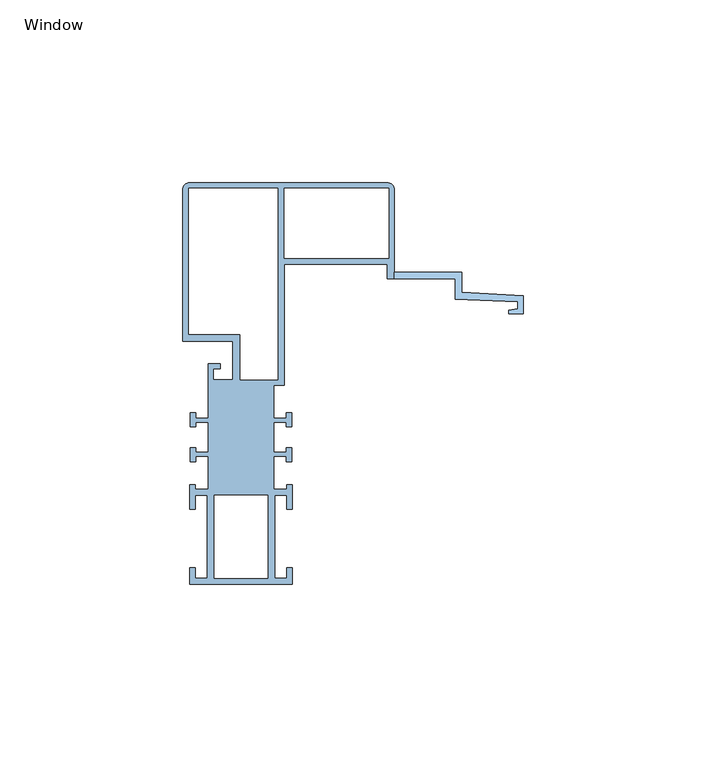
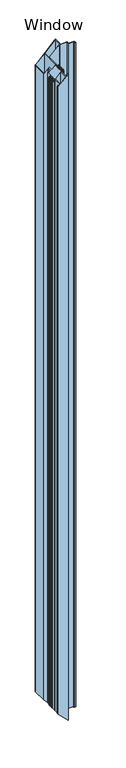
"""IFC4 building model written with IfcOpenShell, lengths in millimetres: window geometry, QO-V-QBISS_Window Module : Window."""

from ifc_helpers import new_model, si_unit, frame, origin, place, context, project, spatial, ellipse_curve, source, transform, mapped, element, save
from ifc_brep_helpers import plane_surface, cylinder_surface, advanced_brep


def window_37efd591(model_context):
    return source(origin(), model_context, "Body", "AdvancedBrep", [
        advanced_brep(
        [(973.0, -24.5, 12.5), (991.5, -24.5, 12.5), (991.5, -30.1, 12.5), (1008.3, -30.9804507, 12.5), (1008.3, -35.9804507, 12.5), (1004.3, -35.9804507, 12.5), (1004.3, -34.974409, 12.5), (1006.8, -34.5971452, 12.5), (1006.8, -32.5971452, 12.5), (989.7, -32.0, 12.5), (989.7, -26.3, 12.5), (973.0, -26.3, 12.5), (973.0, -24.5, 1987.5), (991.5, -24.5, 1987.5), (991.5, -30.1, 1987.5), (1008.3, -30.9804507, 1987.5), (1008.3, -35.9804507, 1987.5), (1004.3, -35.9804507, 1987.5), (1004.3, -34.974409, 1987.5), (1006.8, -34.5971452, 1987.5), (1006.8, -32.5971452, 1987.5), (989.7, -32.0, 1987.5), (989.7, -26.3, 1987.5), (973.0, -26.3, 1987.5), (971.0, -26.3, 1985.5), (971.0, -26.3, 14.5), (971.0, -22.4, 14.5), (942.8, -22.4, 42.7), (942.8, -55.4999986, 42.7), (939.9523459, -55.4999986, 45.5476541), (939.9523459, -64.5037405, 45.5476541), (943.4523458, -64.5037405, 42.0476542), (943.4523458, -63.0037405, 42.0476542), (944.9523458, -63.0037405, 40.5476542), (944.9523458, -66.9037405, 40.5476542), (943.4523458, -66.9037405, 42.0476542), (943.4523458, -65.7037405, 42.0476542), (939.9523458, -65.7037405, 45.5476542), (939.9523458, -73.8037405, 45.5476542), (943.4523458, -73.8037405, 42.0476542), (943.4523458, -72.6037405, 42.0476542), (944.9523458, -72.6037405, 40.5476542), (944.9523458, -76.5037405, 40.5476542), (943.4523458, -76.5037405, 42.0476542), (943.4523458, -75.0037405, 42.0476542), (939.9523452, -75.0037405, 45.5476548), (939.9523452, -84.0037561, 45.5476548), (943.5018295, -84.0037561, 41.9981705), (943.5018295, -82.8037561, 41.9981705), (945.0018295, -82.8037561, 40.4981705), (945.0018295, -89.5037561, 40.4981705), (943.5018295, -89.5037561, 41.9981705), (943.5018295, -85.7037561, 41.9981705), (940.2018295, -85.7037561, 45.2981705), (940.2018295, -108.3037561, 45.2981705), (943.5018295, -108.3037561, 41.9981705), (943.5018295, -105.5037561, 41.9981705), (945.0018295, -105.5037561, 40.4981705), (945.0018295, -110.0037561, 40.4981705), (917.0018295, -110.0037561, 68.4981705), (917.0018295, -105.5037561, 68.4981705), (918.5018295, -105.5037561, 66.9981705), (918.5018295, -108.3037561, 66.9981705), (921.8018295, -108.3037561, 63.6981705), (921.8018295, -85.7037561, 63.6981705), (918.5018295, -85.7037561, 66.9981705), (918.5018295, -89.5037561, 66.9981705), (917.0018295, -89.5037561, 68.4981705), (917.0018295, -82.8037561, 68.4981705), (918.5018295, -82.8037561, 66.9981705), (918.5018295, -84.0037561, 66.9981705), (922.0513139, -84.0037561, 63.4486861), (922.0513139, -75.0037405, 63.4486861), (918.5513133, -75.0037405, 66.9486867), (918.5513133, -76.5037405, 66.9486867), (917.0513133, -76.5037405, 68.4486867), (917.0513133, -72.6037405, 68.4486867), (918.5513133, -72.6037405, 66.9486867), (918.5513133, -73.8037405, 66.9486867), (922.0513133, -73.8037405, 63.4486867), (922.0513133, -65.7037405, 63.4486867), (918.5513133, -65.7037405, 66.9486867), (918.5513133, -66.9037405, 66.9486867), (917.0513133, -66.9037405, 68.4486867), (917.0513133, -63.0037405, 68.4486867), (918.5513133, -63.0037405, 66.9486867), (918.5513133, -64.5037405, 66.9486867), (922.0, -64.5037405, 63.5), (922.0, -49.6, 63.5), (925.3, -49.6, 60.2), (925.3, -51.0, 60.2), (923.4, -51.0, 62.1), (923.4, -54.0, 62.1), (928.8, -54.0, 56.7), (928.8, -43.5, 56.7), (915.0, -43.5, 70.5), (915.0, -2.0, 70.5), (917.0, 0.0, 68.5), (971.0, 0.0, 14.5), (973.0, -2.0, 12.5), (942.8, -1.5, 42.7), (942.8, -20.7, 42.7), (971.5, -20.7, 14.0), (971.5, -1.5, 14.0), (930.8, -41.5, 54.7), (930.8, -54.0, 54.7), (941.1, -54.0, 44.4), (941.1, -1.5, 44.4), (916.7, -1.5, 68.8), (916.7, -41.5, 68.8), (923.7018295, -108.3037561, 61.7981705), (938.3018295, -108.3037561, 47.1981705), (938.3018295, -85.7037561, 47.1981705), (923.7018295, -85.7037561, 61.7981705), (939.9523452, -75.0037405, 1954.4523452), (939.9523452, -84.0037561, 1954.4523452), (943.5018295, -84.0037561, 1958.0018295), (943.4523458, -75.0037405, 1957.9523458), (943.5018295, -82.8037561, 1958.0018295), (945.0018295, -82.8037561, 1959.5018295), (945.0018295, -89.5037561, 1959.5018295), (943.5018295, -89.5037561, 1958.0018295), (943.5018295, -85.7037561, 1958.0018295), (940.2018295, -85.7037561, 1954.7018295), (940.2018295, -108.3037561, 1954.7018295), (943.5018295, -108.3037561, 1958.0018295), (943.5018295, -105.5037561, 1958.0018295), (945.0018295, -105.5037561, 1959.5018295), (945.0018295, -110.0037561, 1959.5018295), (917.0018295, -110.0037561, 1931.5018295), (917.0018295, -105.5037561, 1931.5018295), (918.5018295, -105.5037561, 1933.0018295), (918.5018295, -108.3037561, 1933.0018295), (921.8018295, -108.3037561, 1936.3018295), (921.8018295, -85.7037561, 1936.3018295), (918.5018295, -85.7037561, 1933.0018295), (918.5018295, -89.5037561, 1933.0018295), (917.0018295, -89.5037561, 1931.5018295), (917.0018295, -82.8037561, 1931.5018295), (918.5018295, -82.8037561, 1933.0018295), (918.5018295, -84.0037561, 1933.0018295), (922.0513139, -84.0037561, 1936.5513139), (922.0513139, -75.0037405, 1936.5513139), (918.5513133, -75.0037405, 1933.0513133), (918.5513133, -76.5037405, 1933.0513133), (917.0513133, -76.5037405, 1931.5513133), (917.0513133, -72.6037405, 1931.5513133), (918.5513133, -72.6037405, 1933.0513133), (918.5513133, -73.8037405, 1933.0513133), (922.0513133, -73.8037405, 1936.5513133), (922.0513133, -65.7037405, 1936.5513133), (918.5513133, -65.7037405, 1933.0513133), (918.5513133, -66.9037405, 1933.0513133), (917.0513133, -66.9037405, 1931.5513133), (917.0513133, -63.0037405, 1931.5513133), (918.5513133, -63.0037405, 1933.0513133), (918.5513133, -64.5037405, 1933.0513133), (922.0, -64.5037405, 1936.5), (922.0, -49.6, 1936.5), (925.3, -49.6, 1939.8), (925.3, -51.0, 1939.8), (923.4, -51.0, 1937.9), (923.4, -54.0, 1937.9), (928.8, -54.0, 1943.3), (928.8, -43.5, 1943.3), (915.0, -43.5, 1929.5), (915.0, -2.0, 1929.5), (917.0, 0.0, 1931.5), (971.0, 0.0, 1985.5), (973.0, -2.0, 1987.5), (971.0, -22.4, 1985.5), (942.8, -22.4, 1957.3), (942.8, -55.4999986, 1957.3), (939.9523459, -55.4999986, 1954.4523459), (939.9523459, -64.5037405, 1954.4523459), (943.4523458, -64.5037405, 1957.9523458), (943.4523458, -63.0037405, 1957.9523458), (944.9523458, -63.0037405, 1959.4523458), (944.9523458, -66.9037405, 1959.4523458), (943.4523458, -66.9037405, 1957.9523458), (943.4523458, -65.7037405, 1957.9523458), (939.9523458, -65.7037405, 1954.4523458), (939.9523458, -73.8037405, 1954.4523458), (943.4523458, -73.8037405, 1957.9523458), (943.4523458, -72.6037405, 1957.9523458), (944.9523458, -72.6037405, 1959.4523458), (944.9523458, -76.5037405, 1959.4523458), (943.4523458, -76.5037405, 1957.9523458), (942.8, -1.5, 1957.3), (942.8, -20.7, 1957.3), (971.5, -20.7, 1986.0), (971.5, -1.5, 1986.0), (930.8, -41.5, 1945.3), (930.8, -54.0, 1945.3), (941.1, -54.0, 1955.6), (916.7, -41.5, 1931.2), (941.1, -1.5, 1955.6), (916.7, -1.5, 1931.2), (923.7018295, -108.3037561, 1938.2018295), (938.3018295, -108.3037561, 1952.8018295), (938.3018295, -85.7037561, 1952.8018295), (923.7018295, -85.7037561, 1938.2018295)],
        [
            (0, 1),
            (1, 2),
            (2, 3),
            (3, 4),
            (4, 5),
            (5, 6),
            (6, 7),
            (7, 8),
            (8, 9),
            (9, 10),
            (10, 11),
            (11, 0),
            (12, 13),
            (13, 1),
            (0, 12),
            (13, 14),
            (14, 2),
            (14, 15),
            (15, 3),
            (15, 16),
            (16, 4),
            (16, 17),
            (17, 5),
            (17, 18),
            (18, 6),
            (18, 19),
            (19, 7),
            (19, 20),
            (20, 8),
            (20, 21),
            (21, 9),
            (21, 22),
            (22, 10),
            (22, 23),
            (23, 24),
            (24, 25),
            (25, 11),
            (25, 26),
            (26, 27),
            (27, 28),
            (28, 29),
            (29, 30),
            (30, 31),
            (31, 32),
            (32, 33),
            (33, 34),
            (34, 35),
            (35, 36),
            (36, 37),
            (37, 38),
            (38, 39),
            (39, 40),
            (40, 41),
            (41, 42),
            (42, 43),
            (43, 44),
            (44, 45),
            (45, 46),
            (46, 47),
            (47, 48),
            (48, 49),
            (49, 50),
            (50, 51),
            (51, 52),
            (52, 53),
            (53, 54),
            (54, 55),
            (55, 56),
            (56, 57),
            (57, 58),
            (58, 59),
            (59, 60),
            (60, 61),
            (61, 62),
            (62, 63),
            (63, 64),
            (64, 65),
            (65, 66),
            (66, 67),
            (67, 68),
            (68, 69),
            (69, 70),
            (70, 71),
            (71, 72),
            (72, 73),
            (73, 74),
            (74, 75),
            (75, 76),
            (76, 77),
            (77, 78),
            (78, 79),
            (79, 80),
            (80, 81),
            (81, 82),
            (82, 83),
            (83, 84),
            (84, 85),
            (85, 86),
            (86, 87),
            (87, 88),
            (88, 89),
            (89, 90),
            (90, 91),
            (91, 92),
            (92, 93),
            (93, 94),
            (94, 95),
            (95, 96),
            (96, 97, ellipse_curve(frame((917.0, -2.0, 68.5), z_axis=(-0.7071067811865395, 0.0, -0.7071067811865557), x_axis=(-0.7071067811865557, 0.0, 0.7071067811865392)), 2.8284271, 2.0)),
            (97, 98),
            (98, 99, ellipse_curve(frame((971.0, -2.0, 14.5), z_axis=(-0.7071067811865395, 0.0, -0.7071067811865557), x_axis=(-0.7071067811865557, 0.0, 0.7071067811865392)), 2.8284271, 2.0)),
            (99, 0),
            (100, 101),
            (101, 102),
            (102, 103),
            (103, 100),
            (104, 105),
            (105, 106),
            (106, 107),
            (107, 108),
            (108, 109),
            (109, 104),
            (110, 111),
            (111, 112),
            (112, 113),
            (113, 110),
            (114, 115),
            (115, 46),
            (45, 114),
            (115, 116),
            (116, 47),
            (117, 114),
            (44, 117),
            (116, 118),
            (118, 48),
            (118, 119),
            (119, 49),
            (119, 120),
            (120, 50),
            (120, 121),
            (121, 51),
            (121, 122),
            (122, 52),
            (122, 123),
            (123, 53),
            (123, 124),
            (124, 54),
            (124, 125),
            (125, 55),
            (125, 126),
            (126, 56),
            (126, 127),
            (127, 57),
            (127, 128),
            (128, 58),
            (128, 129),
            (129, 59),
            (129, 130),
            (130, 60),
            (130, 131),
            (131, 61),
            (131, 132),
            (132, 62),
            (132, 133),
            (133, 63),
            (133, 134),
            (134, 64),
            (134, 135),
            (135, 65),
            (135, 136),
            (136, 66),
            (136, 137),
            (137, 67),
            (137, 138),
            (138, 68),
            (138, 139),
            (139, 69),
            (139, 140),
            (140, 70),
            (140, 141),
            (141, 71),
            (141, 142),
            (142, 72),
            (142, 143),
            (143, 73),
            (143, 144),
            (144, 74),
            (144, 145),
            (145, 75),
            (145, 146),
            (146, 76),
            (146, 147),
            (147, 77),
            (147, 148),
            (148, 78),
            (148, 149),
            (149, 79),
            (149, 150),
            (150, 80),
            (150, 151),
            (151, 81),
            (151, 152),
            (152, 82),
            (152, 153),
            (153, 83),
            (153, 154),
            (154, 84),
            (154, 155),
            (155, 85),
            (155, 156),
            (156, 86),
            (156, 157),
            (157, 87),
            (157, 158),
            (158, 88),
            (158, 159),
            (159, 89),
            (159, 160),
            (160, 90),
            (160, 161),
            (161, 91),
            (161, 162),
            (162, 92),
            (162, 163),
            (163, 93),
            (163, 164),
            (164, 94),
            (164, 165),
            (165, 95),
            (165, 166),
            (166, 96),
            (166, 167, ellipse_curve(frame((917.0, -2.0, 1931.5), z_axis=(0.7071067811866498, 0.0, -0.7071067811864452), x_axis=(0.7071067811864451, 0.0, 0.7071067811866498)), 2.8284271, 2.0)),
            (167, 97),
            (167, 168),
            (168, 98),
            (169, 99),
            (168, 169, ellipse_curve(frame((971.0, -2.0, 1985.5), z_axis=(0.7071067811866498, 0.0, -0.7071067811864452), x_axis=(0.7071067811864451, 0.0, 0.7071067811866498)), 2.8284271, 2.0)),
            (169, 12),
            (24, 170),
            (170, 26),
            (170, 171),
            (171, 27),
            (171, 172),
            (172, 28),
            (172, 173),
            (173, 29),
            (173, 174),
            (174, 30),
            (174, 175),
            (175, 31),
            (175, 176),
            (176, 32),
            (176, 177),
            (177, 33),
            (177, 178),
            (178, 34),
            (178, 179),
            (179, 35),
            (179, 180),
            (180, 36),
            (180, 181),
            (181, 37),
            (181, 182),
            (182, 38),
            (182, 183),
            (183, 39),
            (183, 184),
            (184, 40),
            (184, 185),
            (185, 41),
            (185, 186),
            (186, 42),
            (186, 187),
            (187, 43),
            (187, 117),
            (188, 189),
            (189, 101),
            (100, 188),
            (189, 190),
            (190, 102),
            (191, 188),
            (103, 191),
            (190, 191),
            (192, 193),
            (193, 105),
            (104, 192),
            (193, 194),
            (194, 106),
            (195, 192),
            (109, 195),
            (194, 196),
            (196, 107),
            (196, 197),
            (197, 108),
            (197, 195),
            (198, 199),
            (199, 111),
            (110, 198),
            (199, 200),
            (200, 112),
            (201, 198),
            (113, 201),
            (200, 201),
            (12, 23),
        ],
        [
            plane_surface(frame((1000.0, 0.0, 12.5), z_axis=(0.0, 0.0, -1.0), x_axis=(0.0, -1.0, 0.0))),
            plane_surface(frame((991.5, -24.5, 1987.5), z_axis=(0.0, 1.0, 0.0), x_axis=(0.0, 0.0, -1.0))),
            plane_surface(frame((991.5, -30.1, 1987.5), z_axis=(1.0, 0.0, 0.0), x_axis=(0.0, 0.0, -1.0))),
            plane_surface(frame((1008.3, -30.9804507, 1987.5), z_axis=(0.05233595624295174, 0.9986295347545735, 0.0), x_axis=(0.0, 0.0, -1.0))),
            plane_surface(frame((1008.3, -35.9804507, 1987.5), z_axis=(1.0, 0.0, 0.0), x_axis=(0.0, 0.0, -1.0))),
            plane_surface(frame((1004.3, -35.9804507, 1987.5), z_axis=(0.0, -1.0, 0.0), x_axis=(0.0, 0.0, -1.0))),
            plane_surface(frame((1004.3, -34.974409, 1987.5), z_axis=(-1.0, 0.0, 0.0), x_axis=(0.0, 0.0, -1.0))),
            plane_surface(frame((1006.8, -34.5971452, 1987.5), z_axis=(-0.14921608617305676, 0.9888046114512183, 0.0), x_axis=(0.0, 0.0, -1.0))),
            plane_surface(frame((1006.8, -32.5971452, 1987.5), z_axis=(-1.0, 0.0, 0.0), x_axis=(0.0, 0.0, -1.0))),
            plane_surface(frame((989.7, -32.0, 1987.5), z_axis=(-0.0348994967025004, -0.9993908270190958, 0.0), x_axis=(0.0, 0.0, -1.0))),
            plane_surface(frame((989.7, -26.3, 1987.5), z_axis=(-1.0, 0.0, 0.0), x_axis=(0.0, 0.0, -1.0))),
            plane_surface(frame((971.0, -26.3, 1987.5), z_axis=(0.0, -1.0, 0.0), x_axis=(0.0, 0.0, -1.0))),
            plane_surface(frame((973.0, -180.0, 12.5), z_axis=(-0.7071067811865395, 0.0, -0.7071067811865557), x_axis=(0.0, 1.0, 0.0))),
            plane_surface(frame((939.9523452, -84.0037561, 1987.5), z_axis=(1.0, 0.0, 0.0), x_axis=(0.0, 0.0, -1.0))),
            plane_surface(frame((943.5018295, -84.0037561, 1987.5), z_axis=(0.0, 1.0, 0.0), x_axis=(0.0, 0.0, -1.0))),
            plane_surface(frame((939.9523452, -75.0037405, 1987.5), z_axis=(0.0, -1.0, 0.0), x_axis=(0.0, 0.0, -1.0))),
            plane_surface(frame((943.5018295, -82.8037561, 1987.5), z_axis=(-1.0, 0.0, 0.0), x_axis=(0.0, 0.0, -1.0))),
            plane_surface(frame((945.0018295, -82.8037561, 1987.5), z_axis=(0.0, 1.0, 0.0), x_axis=(0.0, 0.0, -1.0))),
            plane_surface(frame((945.0018295, -89.5037561, 1987.5), z_axis=(1.0, 0.0, 0.0), x_axis=(0.0, 0.0, -1.0))),
            plane_surface(frame((943.5018295, -89.5037561, 1987.5), z_axis=(0.0, -1.0, 0.0), x_axis=(0.0, 0.0, -1.0))),
            plane_surface(frame((943.5018295, -85.7037561, 1987.5), z_axis=(-1.0, 0.0, 0.0), x_axis=(0.0, 0.0, -1.0))),
            plane_surface(frame((940.2018295, -85.7037561, 1987.5), z_axis=(0.0, -1.0, 0.0), x_axis=(0.0, 0.0, -1.0))),
            plane_surface(frame((940.2018295, -108.3037561, 1987.5), z_axis=(1.0, 0.0, 0.0), x_axis=(0.0, 0.0, -1.0))),
            plane_surface(frame((943.5018295, -108.3037561, 1987.5), z_axis=(0.0, 1.0, 0.0), x_axis=(0.0, 0.0, -1.0))),
            plane_surface(frame((943.5018295, -105.5037561, 1987.5), z_axis=(-1.0, 0.0, 0.0), x_axis=(0.0, 0.0, -1.0))),
            plane_surface(frame((945.0018295, -105.5037561, 1987.5), z_axis=(0.0, 1.0, 0.0), x_axis=(0.0, 0.0, -1.0))),
            plane_surface(frame((945.0018295, -110.0037561, 1987.5), z_axis=(1.0, 0.0, 0.0), x_axis=(0.0, 0.0, -1.0))),
            plane_surface(frame((917.0018295, -110.0037561, 1987.5), z_axis=(0.0, -1.0, 0.0), x_axis=(0.0, 0.0, -1.0))),
            plane_surface(frame((917.0018295, -105.5037561, 1987.5), z_axis=(-1.0, 0.0, 0.0), x_axis=(0.0, 0.0, -1.0))),
            plane_surface(frame((918.5018295, -105.5037561, 1987.5), z_axis=(0.0, 1.0, 0.0), x_axis=(0.0, 0.0, -1.0))),
            plane_surface(frame((918.5018295, -108.3037561, 1987.5), z_axis=(1.0, 0.0, 0.0), x_axis=(0.0, 0.0, -1.0))),
            plane_surface(frame((921.8018295, -108.3037561, 1987.5), z_axis=(0.0, 1.0, 0.0), x_axis=(0.0, 0.0, -1.0))),
            plane_surface(frame((921.8018295, -85.7037561, 1987.5), z_axis=(-1.0, 0.0, 0.0), x_axis=(0.0, 0.0, -1.0))),
            plane_surface(frame((918.5018295, -85.7037561, 1987.5), z_axis=(0.0, -1.0, 0.0), x_axis=(0.0, 0.0, -1.0))),
            plane_surface(frame((918.5018295, -89.5037561, 1987.5), z_axis=(1.0, 0.0, 0.0), x_axis=(0.0, 0.0, -1.0))),
            plane_surface(frame((917.0018295, -89.5037561, 1987.5), z_axis=(0.0, -1.0, 0.0), x_axis=(0.0, 0.0, -1.0))),
            plane_surface(frame((917.0018295, -82.8037561, 1987.5), z_axis=(-1.0, 0.0, 0.0), x_axis=(0.0, 0.0, -1.0))),
            plane_surface(frame((918.5018295, -82.8037561, 1987.5), z_axis=(0.0, 1.0, 0.0), x_axis=(0.0, 0.0, -1.0))),
            plane_surface(frame((918.5018295, -84.0037561, 1987.5), z_axis=(1.0, 0.0, 0.0), x_axis=(0.0, 0.0, -1.0))),
            plane_surface(frame((922.0513139, -84.0037561, 1987.5), z_axis=(0.0, 1.0, 0.0), x_axis=(0.0, 0.0, -1.0))),
            plane_surface(frame((922.0513139, -75.0037405, 1987.5), z_axis=(-1.0, 0.0, 0.0), x_axis=(0.0, 0.0, -1.0))),
            plane_surface(frame((918.5513133, -75.0037405, 1987.5), z_axis=(0.0, -1.0, 0.0), x_axis=(0.0, 0.0, -1.0))),
            plane_surface(frame((918.5513133, -76.5037405, 1987.5), z_axis=(1.0, 0.0, 0.0), x_axis=(0.0, 0.0, -1.0))),
            plane_surface(frame((917.0513133, -76.5037405, 1987.5), z_axis=(0.0, -1.0, 0.0), x_axis=(0.0, 0.0, -1.0))),
            plane_surface(frame((917.0513133, -72.6037405, 1987.5), z_axis=(-1.0, 0.0, 0.0), x_axis=(0.0, 0.0, -1.0))),
            plane_surface(frame((918.5513133, -72.6037405, 1987.5), z_axis=(0.0, 1.0, 0.0), x_axis=(0.0, 0.0, -1.0))),
            plane_surface(frame((918.5513133, -73.8037405, 1987.5), z_axis=(1.0, 0.0, 0.0), x_axis=(0.0, 0.0, -1.0))),
            plane_surface(frame((922.0513133, -73.8037405, 1987.5), z_axis=(0.0, 1.0, 0.0), x_axis=(0.0, 0.0, -1.0))),
            plane_surface(frame((922.0513133, -65.7037405, 1987.5), z_axis=(-1.0, 0.0, 0.0), x_axis=(0.0, 0.0, -1.0))),
            plane_surface(frame((918.5513133, -65.7037405, 1987.5), z_axis=(0.0, -1.0, 0.0), x_axis=(0.0, 0.0, -1.0))),
            plane_surface(frame((918.5513133, -66.9037405, 1987.5), z_axis=(1.0, 0.0, 0.0), x_axis=(0.0, 0.0, -1.0))),
            plane_surface(frame((917.0513133, -66.9037405, 1987.5), z_axis=(0.0, -1.0, 0.0), x_axis=(0.0, 0.0, -1.0))),
            plane_surface(frame((917.0513133, -63.0037405, 1987.5), z_axis=(-1.0, 0.0, 0.0), x_axis=(0.0, 0.0, -1.0))),
            plane_surface(frame((918.5513133, -63.0037405, 1987.5), z_axis=(0.0, 1.0, 0.0), x_axis=(0.0, 0.0, -1.0))),
            plane_surface(frame((918.5513133, -64.5037405, 1987.5), z_axis=(1.0, 0.0, 0.0), x_axis=(0.0, 0.0, -1.0))),
            plane_surface(frame((922.0, -64.5037405, 1987.5), z_axis=(0.0, 1.0, 0.0), x_axis=(0.0, 0.0, -1.0))),
            plane_surface(frame((922.0, -49.6, 1987.5), z_axis=(-1.0, 0.0, 0.0), x_axis=(0.0, 0.0, -1.0))),
            plane_surface(frame((925.3, -49.6, 1987.5), z_axis=(0.0, 1.0, 0.0), x_axis=(0.0, 0.0, -1.0))),
            plane_surface(frame((925.3, -51.0, 1987.5), z_axis=(1.0, 0.0, 0.0), x_axis=(0.0, 0.0, -1.0))),
            plane_surface(frame((923.4, -51.0, 1987.5), z_axis=(0.0, -1.0, 0.0), x_axis=(0.0, 0.0, -1.0))),
            plane_surface(frame((923.4, -54.0, 1987.5), z_axis=(1.0, 0.0, 0.0), x_axis=(0.0, 0.0, -1.0))),
            plane_surface(frame((928.8, -54.0, 1987.5), z_axis=(0.0, 1.0, 0.0), x_axis=(0.0, 0.0, -1.0))),
            plane_surface(frame((928.8, -43.5, 1987.5), z_axis=(-1.0, 0.0, 0.0), x_axis=(0.0, 0.0, -1.0))),
            plane_surface(frame((915.0, -43.5, 1987.5), z_axis=(0.0, -1.0, 0.0), x_axis=(0.0, 0.0, -1.0))),
            plane_surface(frame((915.0, -2.0, 1987.5), z_axis=(-1.0, 0.0, 0.0), x_axis=(0.0, 0.0, -1.0))),
            cylinder_surface(frame((917.0, -2.0, 1987.5), z_axis=(0.0, 0.0, 1.0), x_axis=(0.0, -1.0, 0.0)), 2.0),
            plane_surface(frame((971.0, 0.0, 1987.5), z_axis=(0.0, 1.0, 0.0), x_axis=(0.0, 0.0, -1.0))),
            cylinder_surface(frame((971.0, -2.0, 1987.5), z_axis=(0.0, 0.0, 1.0), x_axis=(0.0, -1.0, 0.0)), 2.0),
            plane_surface(frame((973.0, -24.5, 1987.5), z_axis=(1.0, 0.0, 0.0), x_axis=(0.0, 0.0, -1.0))),
            plane_surface(frame((971.0, -22.4, 1987.5), z_axis=(-1.0, 0.0, 0.0), x_axis=(0.0, 0.0, -1.0))),
            plane_surface(frame((942.8, -22.4, 1987.5), z_axis=(0.0, -1.0, 0.0), x_axis=(0.0, 0.0, -1.0))),
            plane_surface(frame((942.8, -55.4999986, 1987.5), z_axis=(1.0, 0.0, 0.0), x_axis=(0.0, 0.0, -1.0))),
            plane_surface(frame((939.9523459, -55.4999986, 1987.5), z_axis=(0.0, -1.0, 0.0), x_axis=(0.0, 0.0, -1.0))),
            plane_surface(frame((939.9523459, -64.5037405, 1987.5), z_axis=(1.0, 0.0, 0.0), x_axis=(0.0, 0.0, -1.0))),
            plane_surface(frame((943.4523458, -64.5037405, 1987.5), z_axis=(0.0, 1.0, 0.0), x_axis=(0.0, 0.0, -1.0))),
            plane_surface(frame((943.4523458, -63.0037405, 1987.5), z_axis=(-1.0, 0.0, 0.0), x_axis=(0.0, 0.0, -1.0))),
            plane_surface(frame((944.9523458, -63.0037405, 1987.5), z_axis=(0.0, 1.0, 0.0), x_axis=(0.0, 0.0, -1.0))),
            plane_surface(frame((944.9523458, -66.9037405, 1987.5), z_axis=(1.0, 0.0, 0.0), x_axis=(0.0, 0.0, -1.0))),
            plane_surface(frame((943.4523458, -66.9037405, 1987.5), z_axis=(0.0, -1.0, 0.0), x_axis=(0.0, 0.0, -1.0))),
            plane_surface(frame((943.4523458, -65.7037405, 1987.5), z_axis=(-1.0, 0.0, 0.0), x_axis=(0.0, 0.0, -1.0))),
            plane_surface(frame((939.9523458, -65.7037405, 1987.5), z_axis=(0.0, -1.0, 0.0), x_axis=(0.0, 0.0, -1.0))),
            plane_surface(frame((939.9523458, -73.8037405, 1987.5), z_axis=(1.0, 0.0, 0.0), x_axis=(0.0, 0.0, -1.0))),
            plane_surface(frame((943.4523458, -73.8037405, 1987.5), z_axis=(0.0, 1.0, 0.0), x_axis=(0.0, 0.0, -1.0))),
            plane_surface(frame((943.4523458, -72.6037405, 1987.5), z_axis=(-1.0, 0.0, 0.0), x_axis=(0.0, 0.0, -1.0))),
            plane_surface(frame((944.9523458, -72.6037405, 1987.5), z_axis=(0.0, 1.0, 0.0), x_axis=(0.0, 0.0, -1.0))),
            plane_surface(frame((944.9523458, -76.5037405, 1987.5), z_axis=(1.0, 0.0, 0.0), x_axis=(0.0, 0.0, -1.0))),
            plane_surface(frame((943.4523458, -76.5037405, 1987.5), z_axis=(0.0, -1.0, 0.0), x_axis=(0.0, 0.0, -1.0))),
            plane_surface(frame((943.4523458, -75.0037405, 1987.5), z_axis=(-1.0, 0.0, 0.0), x_axis=(0.0, 0.0, -1.0))),
            plane_surface(frame((942.8, -20.7, 1987.5), z_axis=(1.0, 0.0, 0.0), x_axis=(0.0, 0.0, -1.0))),
            plane_surface(frame((971.5, -20.7, 1987.5), z_axis=(0.0, 1.0, 0.0), x_axis=(0.0, 0.0, -1.0))),
            plane_surface(frame((942.8, -1.5, 1987.5), z_axis=(0.0, -1.0, 0.0), x_axis=(0.0, 0.0, -1.0))),
            plane_surface(frame((971.5, -1.5, 1987.5), z_axis=(-1.0, 0.0, 0.0), x_axis=(0.0, 0.0, -1.0))),
            plane_surface(frame((930.8, -54.0, 1987.5), z_axis=(1.0, 0.0, 0.0), x_axis=(0.0, 0.0, -1.0))),
            plane_surface(frame((941.1, -54.0, 1987.5), z_axis=(0.0, 1.0, 0.0), x_axis=(0.0, 0.0, -1.0))),
            plane_surface(frame((930.8, -41.5, 1987.5), z_axis=(0.0, 1.0, 0.0), x_axis=(0.0, 0.0, -1.0))),
            plane_surface(frame((941.1, -1.5, 1987.5), z_axis=(-1.0, 0.0, 0.0), x_axis=(0.0, 0.0, -1.0))),
            plane_surface(frame((916.7, -1.5, 1987.5), z_axis=(0.0, -1.0, 0.0), x_axis=(0.0, 0.0, -1.0))),
            plane_surface(frame((916.7, -41.5, 1987.5), z_axis=(1.0, 0.0, 0.0), x_axis=(0.0, 0.0, -1.0))),
            plane_surface(frame((938.3018295, -108.3037561, 1987.5), z_axis=(0.0, 1.0, 0.0), x_axis=(0.0, 0.0, -1.0))),
            plane_surface(frame((938.3018295, -85.7037561, 1987.5), z_axis=(-1.0, 0.0, 0.0), x_axis=(0.0, 0.0, -1.0))),
            plane_surface(frame((923.7018295, -108.3037561, 1987.5), z_axis=(1.0, 0.0, 0.0), x_axis=(0.0, 0.0, -1.0))),
            plane_surface(frame((923.7018295, -85.7037561, 1987.5), z_axis=(0.0, -1.0, 0.0), x_axis=(0.0, 0.0, -1.0))),
            plane_surface(frame((1000.0, 0.0, 1987.5), z_axis=(0.0, 0.0, 1.0), x_axis=(0.0, -1.0, 0.0))),
            plane_surface(frame((915.0, -180.0, 1929.5), z_axis=(-0.7071067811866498, 0.0, 0.7071067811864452), x_axis=(0.0, 1.0, 0.0))),
        ],
        [
            (0, [[1, 2, 3, 4, 5, 6, 7, 8, 9, 10, 11, 12]]),
            (1, [[13, 14, -1, 15]]),
            (2, [[16, 17, -2, -14]]),
            (3, [[18, 19, -3, -17]]),
            (4, [[20, 21, -4, -19]]),
            (5, [[22, 23, -5, -21]]),
            (6, [[24, 25, -6, -23]]),
            (7, [[26, 27, -7, -25]]),
            (8, [[28, 29, -8, -27]]),
            (9, [[30, 31, -9, -29]]),
            (10, [[32, 33, -10, -31]]),
            (11, [[-33, 34, 35, 36, 37, -11]]),
            (12, [[-12, -37, 38, 39, 40, 41, 42, 43, 44, 45, 46, 47, 48, 49, 50, 51, 52, 53, 54, 55, 56, 57, 58, 59, 60, 61, 62, 63, 64, 65, 66, 67, 68, 69, 70, 71, 72, 73, 74, 75, 76, 77, 78, 79, 80, 81, 82, 83, 84, 85, 86, 87, 88, 89, 90, 91, 92, 93, 94, 95, 96, 97, 98, 99, 100, 101, 102, 103, 104, 105, 106, 107, 108, 109, 110, 111, 112], [113, 114, 115, 116], [117, 118, 119, 120, 121, 122], [123, 124, 125, 126]]),
            (13, [[127, 128, -58, 129]]),
            (14, [[130, 131, -59, -128]]),
            (15, [[132, -129, -57, 133]]),
            (16, [[134, 135, -60, -131]]),
            (17, [[136, 137, -61, -135]]),
            (18, [[138, 139, -62, -137]]),
            (19, [[140, 141, -63, -139]]),
            (20, [[142, 143, -64, -141]]),
            (21, [[144, 145, -65, -143]]),
            (22, [[146, 147, -66, -145]]),
            (23, [[148, 149, -67, -147]]),
            (24, [[150, 151, -68, -149]]),
            (25, [[152, 153, -69, -151]]),
            (26, [[154, 155, -70, -153]]),
            (27, [[156, 157, -71, -155]]),
            (28, [[158, 159, -72, -157]]),
            (29, [[160, 161, -73, -159]]),
            (30, [[162, 163, -74, -161]]),
            (31, [[164, 165, -75, -163]]),
            (32, [[166, 167, -76, -165]]),
            (33, [[168, 169, -77, -167]]),
            (34, [[170, 171, -78, -169]]),
            (35, [[172, 173, -79, -171]]),
            (36, [[174, 175, -80, -173]]),
            (37, [[176, 177, -81, -175]]),
            (38, [[178, 179, -82, -177]]),
            (39, [[180, 181, -83, -179]]),
            (40, [[182, 183, -84, -181]]),
            (41, [[184, 185, -85, -183]]),
            (42, [[186, 187, -86, -185]]),
            (43, [[188, 189, -87, -187]]),
            (44, [[190, 191, -88, -189]]),
            (45, [[192, 193, -89, -191]]),
            (46, [[194, 195, -90, -193]]),
            (47, [[196, 197, -91, -195]]),
            (48, [[198, 199, -92, -197]]),
            (49, [[200, 201, -93, -199]]),
            (50, [[202, 203, -94, -201]]),
            (51, [[204, 205, -95, -203]]),
            (52, [[206, 207, -96, -205]]),
            (53, [[208, 209, -97, -207]]),
            (54, [[210, 211, -98, -209]]),
            (55, [[212, 213, -99, -211]]),
            (56, [[214, 215, -100, -213]]),
            (57, [[216, 217, -101, -215]]),
            (58, [[218, 219, -102, -217]]),
            (59, [[220, 221, -103, -219]]),
            (60, [[222, 223, -104, -221]]),
            (61, [[224, 225, -105, -223]]),
            (62, [[226, 227, -106, -225]]),
            (63, [[228, 229, -107, -227]]),
            (64, [[230, 231, -108, -229]]),
            (65, [[232, 233, -109, -231]]),
            (66, [[234, 235, -110, -233]]),
            (67, [[236, -111, -235, 237]]),
            (68, [[-236, 238, -15, -112]]),
            (69, [[239, 240, -38, -36]]),
            (70, [[241, 242, -39, -240]]),
            (71, [[243, 244, -40, -242]]),
            (72, [[245, 246, -41, -244]]),
            (73, [[247, 248, -42, -246]]),
            (74, [[249, 250, -43, -248]]),
            (75, [[251, 252, -44, -250]]),
            (76, [[253, 254, -45, -252]]),
            (77, [[255, 256, -46, -254]]),
            (78, [[257, 258, -47, -256]]),
            (79, [[259, 260, -48, -258]]),
            (80, [[261, 262, -49, -260]]),
            (81, [[263, 264, -50, -262]]),
            (82, [[265, 266, -51, -264]]),
            (83, [[267, 268, -52, -266]]),
            (84, [[269, 270, -53, -268]]),
            (85, [[271, 272, -54, -270]]),
            (86, [[273, 274, -55, -272]]),
            (87, [[275, -133, -56, -274]]),
            (88, [[276, 277, -113, 278]]),
            (89, [[279, 280, -114, -277]]),
            (90, [[281, -278, -116, 282]]),
            (91, [[283, -282, -115, -280]]),
            (92, [[284, 285, -117, 286]]),
            (93, [[287, 288, -118, -285]]),
            (94, [[289, -286, -122, 290]]),
            (95, [[291, 292, -119, -288]]),
            (96, [[293, 294, -120, -292]]),
            (97, [[295, -290, -121, -294]]),
            (98, [[296, 297, -123, 298]]),
            (99, [[299, 300, -124, -297]]),
            (100, [[301, -298, -126, 302]]),
            (101, [[303, -302, -125, -300]]),
            (102, [[-32, -30, -28, -26, -24, -22, -20, -18, -16, -13, 304, -34]]),
            (103, [[-304, -238, -237, -234, -232, -230, -228, -226, -224, -222, -220, -218, -216, -214, -212, -210, -208, -206, -204, -202, -200, -198, -196, -194, -192, -190, -188, -186, -184, -182, -180, -178, -176, -174, -172, -170, -168, -166, -164, -162, -160, -158, -156, -154, -152, -150, -148, -146, -144, -142, -140, -138, -136, -134, -130, -127, -132, -275, -273, -271, -269, -267, -265, -263, -261, -259, -257, -255, -253, -251, -249, -247, -245, -243, -241, -239, -35], [-276, -281, -283, -279], [-284, -289, -295, -293, -291, -287], [-296, -301, -303, -299]]),
        ],
    ),
    ])


if __name__ == "__main__":
    model = new_model("IFC4")
    model_context = context("Model", 3, world=origin())
    ifc_project = project(units=[si_unit("LENGTHUNIT", "METRE", prefix="MILLI")], contexts=[model_context])
    site = spatial("IfcSite", under=ifc_project)
    building = spatial("IfcBuilding", under=site)
    placement = place(None, origin())
    window_shape = window_37efd591(model_context)
    element("IfcWindow", 1, ObjectType="QO-V-QBISS_Window Module : Window", at=placement, inside=building, context=model_context, shape_type="MappedRepresentation", body=[
        mapped(window_shape, transform((0.0, 0.0, 0.0), x_axis=(1.0, 0.0, 0.0), y_axis=(0.0, 1.0, 0.0), z_axis=(0.0, 0.0, 1.0))),
    ])
    save(model, "model.ifc")
